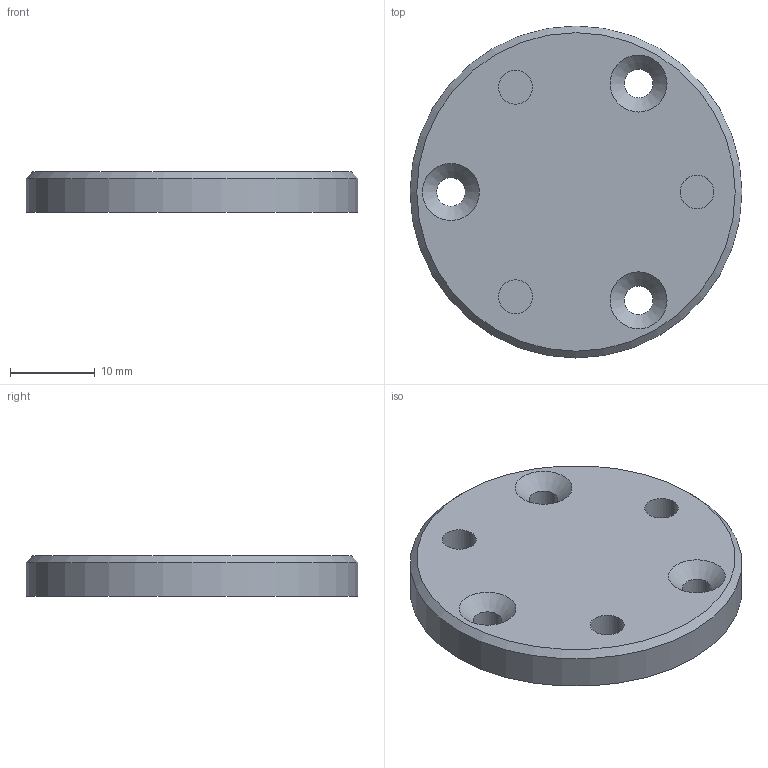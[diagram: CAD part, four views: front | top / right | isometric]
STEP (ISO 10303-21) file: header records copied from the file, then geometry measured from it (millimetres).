
FILE_DESCRIPTION(/* description */ ('STEP AP242 Edition 2','CAx-IF Rec.Pracs.---Representation and Presentation of Product Manufacturing Information (PMI)---4.0---2014-10-13','CAx-IF Rec.Pracs.---3D Tessellated Geometry---0.4---2014-09-14','2;1','CAx-IF Rec.Pracs.---User Defined Attributes---1.5---2016-08-15'),/* implementation_level */ '2;1');
FILE_NAME(/* name */ 'Main - Output',/* time_stamp */ '2026-07-24T17:05:33Z',/* author */ (''),/* organization */ (''),/* preprocessor_version */ 'ST-DEVELOPER v20',/* originating_system */ 'ONSHAPE BY PTC INC, 1.218',/* authorisation */ ' ');
FILE_SCHEMA (('AP242_MANAGED_MODEL_BASED_3D_ENGINEERING_MIM_LF { 1 0 10303 442 3 1 4 }'));
Length unit declared in the file: metre
Products named in the file (1): Output
Bounding box: 39.21 x 39.21 x 4.76 mm (x, y, z)
Volume: 5394.4 mm3; surface area: 3150.3 mm2
Topology: 1 solids, 1 shells, 16 faces, 29 edges, 18 vertices
Faces by surface type: cylinder 7, plane 5, cone 4
Full cylindrical faces by diameter (mm): 3.4 x3, 4 x3, 39.208 x1
Entity records: 378 total; most frequent: DIRECTION 70, CARTESIAN_POINT 53, ORIENTED_EDGE 36, EDGE_LOOP 36, FACE_BOUND 36, AXIS2_PLACEMENT_3D 35, EDGE_CURVE 18, VERTEX_POINT 18
